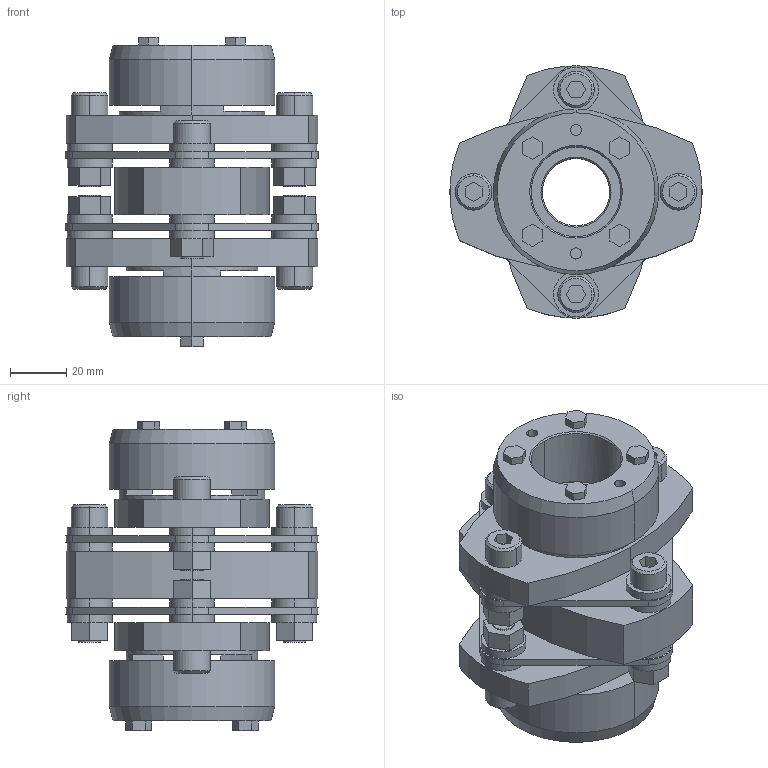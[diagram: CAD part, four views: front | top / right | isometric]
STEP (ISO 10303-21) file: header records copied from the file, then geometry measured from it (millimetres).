
FILE_DESCRIPTION((''),'2;1');
FILE_NAME('LCD-90T7-24×32.stp','2015-11-01T19:29:55',(''),(''),'AutoCAD STEP 2000i','AutoCAD 2000i',', , ');
FILE_SCHEMA(('CONFIG_CONTROL_DESIGN'));
Length unit declared in the file: millimetre
Products named in the file (9): LCD-90T7-25×32; 忣兜1; LC90T7-T032; LC90T7-T030; LC90T7-T025-1; LC90T7-T025; LC90T7-T019-1; LC90T7-T019; LCD90-ITA
Assembly tree (8 placements, depth 2):
  LCD-90T7-25×32
    忣兜1
    LC90T7-T032
    LC90T7-T030
    LC90T7-T025-1
    LC90T7-T025
    LC90T7-T019-1
    LC90T7-T019
    LCD90-ITA
Bounding box: 90 x 89.94 x 110.3 mm (x, y, z)
Volume: 258026.5 mm3; surface area: 72723.5 mm2
Topology: 1 solids, 1 shells, 320 faces, 780 edges, 512 vertices
Faces by surface type: plane 176, cylinder 120, cone 24
Entity records: 9691 total; most frequent: DIRECTION 1718, CARTESIAN_POINT 1621, ORIENTED_EDGE 1560, EDGE_CURVE 780, AXIS2_PLACEMENT_3D 609, VERTEX_POINT 512, VECTOR 500, LINE 500
